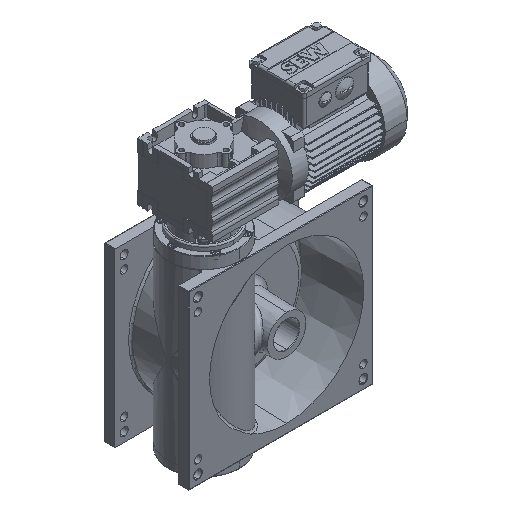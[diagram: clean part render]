
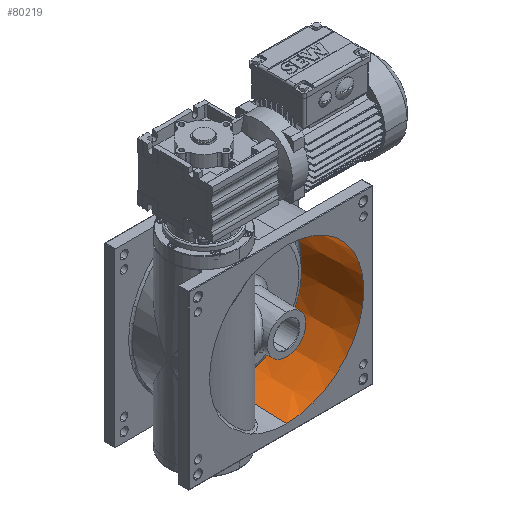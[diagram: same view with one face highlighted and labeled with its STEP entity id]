
A CAD part, isometric view. The second image highlights one B-rep face of the part: STEP entity #80219.
In plain terms, the highlighted conical face has half-angle 2 degrees and reference radius 104.105 mm.
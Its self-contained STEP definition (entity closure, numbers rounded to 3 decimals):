
#817 = CARTESIAN_POINT ( 'NONE',  ( 0., 84.705, 101.147 ) ) ;
#3009 = AXIS2_PLACEMENT_3D ( 'NONE', #78005, #27665, #41022 ) ;
#7252 = LINE ( 'NONE', #44735, #80510 ) ;
#8440 = AXIS2_PLACEMENT_3D ( 'NONE', #74070, #42888, #35813 ) ;
#10406 = FACE_OUTER_BOUND ( 'NONE', #81790, .T. ) ;
#12362 = VERTEX_POINT ( 'NONE', #26655 ) ;
#17848 = EDGE_CURVE ( 'NONE', #26451, #25899, #7252, .T. ) ;
#23406 = CARTESIAN_POINT ( 'NONE',  ( 0., 0., -104.105 ) ) ;
#25064 = ORIENTED_EDGE ( 'NONE', *, *, #58768, .T. ) ;
#25726 = EDGE_CURVE ( 'NONE', #26451, #40533, #70269, .T. ) ;
#25899 = VERTEX_POINT ( 'NONE', #35720 ) ;
#26451 = VERTEX_POINT ( 'NONE', #817 ) ;
#26655 = CARTESIAN_POINT ( 'NONE',  ( 0., 3., -104. ) ) ;
#26974 = CIRCLE ( 'NONE', #3009, 104. ) ;
#27010 = DIRECTION ( 'NONE',  ( 0., 1., 0. ) ) ;
#27419 = ORIENTED_EDGE ( 'NONE', *, *, #28762, .F. ) ;
#27665 = DIRECTION ( 'NONE',  ( 0., 1., 0. ) ) ;
#28762 = EDGE_CURVE ( 'NONE', #25899, #12362, #26974, .T. ) ;
#33440 = DIRECTION ( 'NONE',  ( 0., -0.999, 0.035 ) ) ;
#35720 = CARTESIAN_POINT ( 'NONE',  ( 0., 3., 104. ) ) ;
#35813 = DIRECTION ( 'NONE',  ( 0., 0., -1. ) ) ;
#40533 = VERTEX_POINT ( 'NONE', #47426 ) ;
#41022 = DIRECTION ( 'NONE',  ( 0., 0., -1. ) ) ;
#42888 = DIRECTION ( 'NONE',  ( 0., -1., 0. ) ) ;
#44735 = CARTESIAN_POINT ( 'NONE',  ( 0., 0., 104.105 ) ) ;
#47426 = CARTESIAN_POINT ( 'NONE',  ( 0., 84.705, -101.147 ) ) ;
#51203 = ORIENTED_EDGE ( 'NONE', *, *, #25726, .T. ) ;
#54234 = DIRECTION ( 'NONE',  ( 0., -0.999, -0.035 ) ) ;
#54353 = AXIS2_PLACEMENT_3D ( 'NONE', #73152, #27010, #65242 ) ;
#54665 = VECTOR ( 'NONE', #54234, 1000. ) ;
#58768 = EDGE_CURVE ( 'NONE', #40533, #12362, #79548, .T. ) ;
#65242 = DIRECTION ( 'NONE',  ( 0., 0., 1. ) ) ;
#66642 = ORIENTED_EDGE ( 'NONE', *, *, #17848, .F. ) ;
#70269 = CIRCLE ( 'NONE', #54353, 101.147 ) ;
#73152 = CARTESIAN_POINT ( 'NONE',  ( 0., 84.705, 0. ) ) ;
#74070 = CARTESIAN_POINT ( 'NONE',  ( 0., 0., 0. ) ) ;
#78005 = CARTESIAN_POINT ( 'NONE',  ( 0., 3., 0. ) ) ;
#78819 = CONICAL_SURFACE ( 'NONE', #8440, 104.105, 0.035 ) ;
#79548 = LINE ( 'NONE', #23406, #54665 ) ;
#80219 = ADVANCED_FACE ( 'NONE', ( #10406 ), #78819, .F. ) ;
#80510 = VECTOR ( 'NONE', #33440, 1000. ) ;
#81790 = EDGE_LOOP ( 'NONE', ( #66642, #51203, #25064, #27419 ) ) ;
